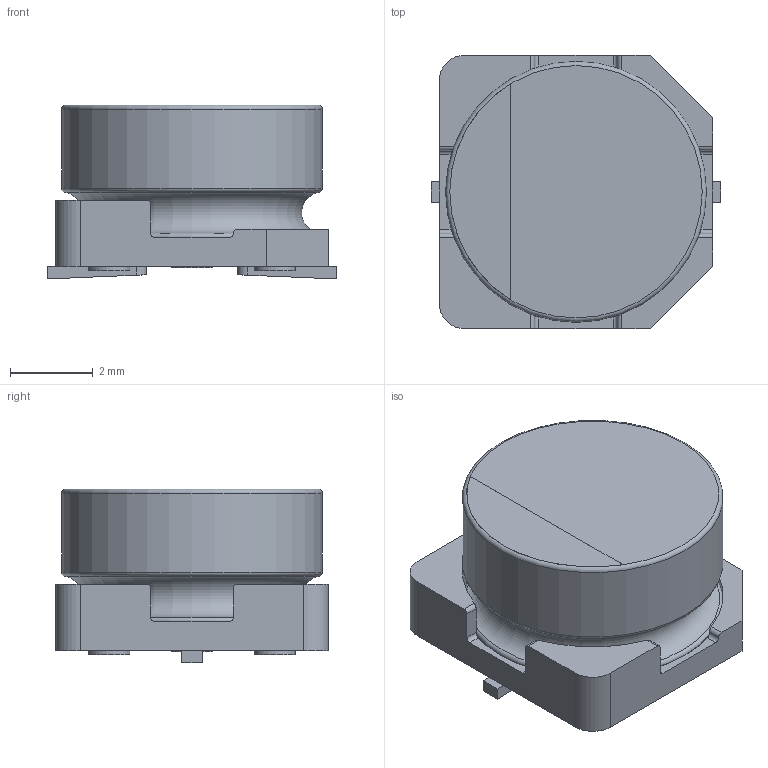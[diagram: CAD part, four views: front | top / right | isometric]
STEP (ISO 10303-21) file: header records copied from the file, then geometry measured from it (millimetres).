
FILE_DESCRIPTION(/* description */ (''),/* implementation_level */ '2;1');
FILE_NAME(/* name */ '6.3x4.2_Chip.stp',/* time_stamp */ '2017-09-04T16:54:04+09:00',/* author */ (''),/* organization */ (''),/* preprocessor_version */ 'ST-DEVELOPER v16',/* originating_system */ 'SIEMENS PLM Software NX 11.0',/* authorisation */ '');
FILE_SCHEMA (('AUTOMOTIVE_DESIGN { 1 0 10303 214 3 1 1 1 }'));
Length unit declared in the file: millimetre
Products named in the file (1): 6.3x4.2_Chip_0
Bounding box: 7 x 6.6 x 4.2 mm (x, y, z)
Volume: 127.5 mm3; surface area: 267.4 mm2
Topology: 5 solids, 5 shells, 74 faces, 175 edges, 116 vertices
Faces by surface type: plane 36, cylinder 34, torus 4
Full cylindrical faces by diameter (mm): 1 x5, 6.3 x2
Entity records: 2304 total; most frequent: CARTESIAN_POINT 485, DIRECTION 350, ORIENTED_EDGE 322, EDGE_CURVE 161, AXIS2_PLACEMENT_3D 130, VERTEX_POINT 113, EDGE_LOOP 90, LINE 90
